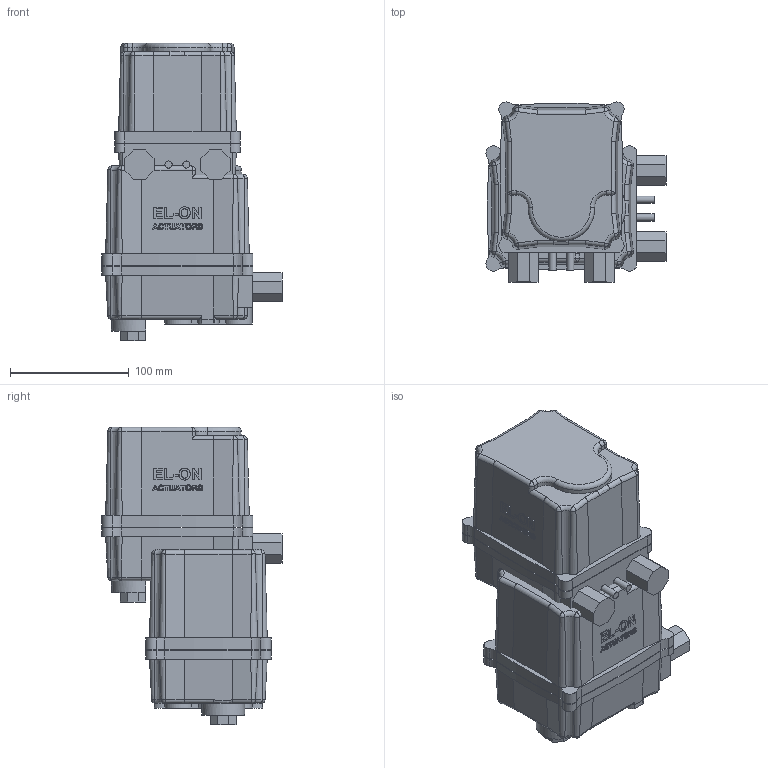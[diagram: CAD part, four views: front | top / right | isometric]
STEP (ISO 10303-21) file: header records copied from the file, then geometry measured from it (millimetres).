
FILE_DESCRIPTION( ( 'Unknown' ), '1' );
FILE_NAME( 'J:/Muud/ROOTSI BPS 3D vidinad/Kuulkraanid/Roostevaba kuulkraanid/Ball valve BPS 2411/Ball valve with electric actuator BPS/STEP formaat/BPS 2411032E ball valve DN32.stp', 'Unknown', ( 'Unknown' ), ( 'Unknown' ), 'PSStep 10.1', 'Unknown', ' ' );
FILE_SCHEMA( ( 'AUTOMOTIVE_DESIGN { 1 0 10303 214 1 1 1 1 }' ) );
Length unit declared in the file: millimetre
Products named in the file (4): Assem1; BPS 2411032 ball valve DN32; BPS 8005058 electric actuator DN40-100
Bounding box: 151.5 x 151.5 x 250.2 mm (x, y, z)
Volume: 3290790 mm3; surface area: 307780.6 mm2
Topology: 6 solids, 6 shells, 1112 faces, 2864 edges, 1856 vertices
Faces by surface type: plane 432, cylinder 256, extrusion 190, bspline 126, cone 82, torus 26
Full cylindrical faces by diameter (mm): 4.134 x16, 4.917 x8, 6 x4, 6.647 x8, 27 x2, 32 x2, 35 x2, 38.952 x4, 62 x2
Entity records: 29476 total; most frequent: CARTESIAN_POINT 12692, ORIENTED_EDGE 2670, DIRECTION 2062, EDGE_CURVE 1335, VERTEX_POINT 908, VECTOR 708, AXIS2_PLACEMENT_3D 677, EDGE_LOOP 673
